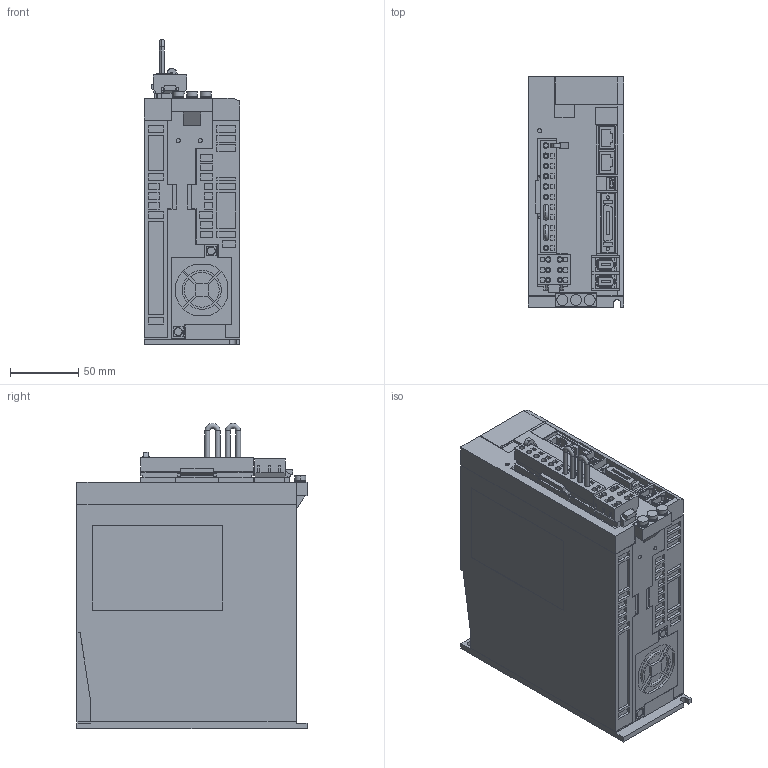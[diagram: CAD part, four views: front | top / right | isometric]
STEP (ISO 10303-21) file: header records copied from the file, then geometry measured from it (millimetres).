
FILE_DESCRIPTION (( 'STEP AP203' ), '1' );
FILE_NAME ('sgdxw_1r6a__a.STEP', '2021-02-09T11:58:42', ( 'YMANOUCHI' ), ( 'TAKUMI-Engniaring' ), 'SwSTEP 2.0', 'SolidWorks 2005204', '' );
FILE_SCHEMA (( 'CONFIG_CONTROL_DESIGN' ));
Products named in the file (8): sgdxw_1r6a__a_cable; sgdxw_1r6a__a_connector_1; sgdxw_1r6a__a; sgdxw_1r6a__a_base; sgdxw_1r6a__a_connector; sgdxw_1r6a__a_connector_2; sgdxw_1r6a__a_pin; sgdxw_1r6a__a_cover
Assembly tree (8 placements, depth 3):
  sgdxw_1r6a__a
    sgdxw_1r6a__a_connector_1
    sgdxw_1r6a__a_cover
    sgdxw_1r6a__a_connector
      sgdxw_1r6a__a_cable  x2
      sgdxw_1r6a__a_pin
      sgdxw_1r6a__a_connector_2
    sgdxw_1r6a__a_base
Bounding box: 70 x 168 x 223 mm (x, y, z)
Volume: 1995810 mm3; surface area: 149701.3 mm2
Topology: 7 solids, 7 shells, 1657 faces, 4266 edges, 2814 vertices
Faces by surface type: plane 1493, cylinder 160, torus 4
Entity records: 50034 total; most frequent: CARTESIAN_POINT 8693, ORIENTED_EDGE 8480, DIRECTION 7860, EDGE_CURVE 4240, VECTOR 3930, LINE 3930, VERTEX_POINT 2798, AXIS2_PLACEMENT_3D 1965
